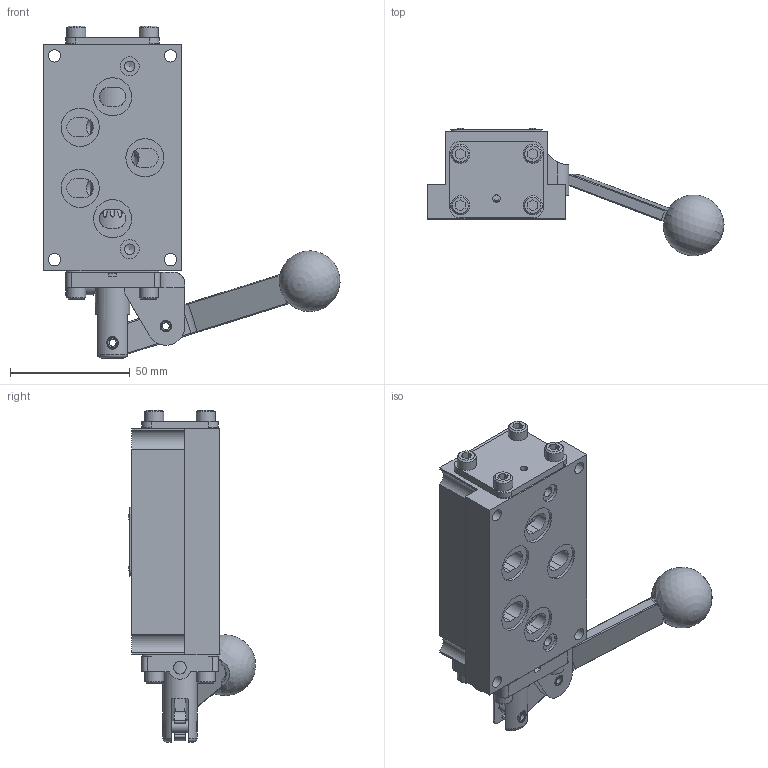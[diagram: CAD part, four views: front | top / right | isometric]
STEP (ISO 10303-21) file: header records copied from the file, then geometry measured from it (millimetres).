
FILE_DESCRIPTION(/* description */ (''),/* implementation_level */ '2;1');
FILE_NAME(/* name */ 'D:\Engineering\Product\valves\Assembly\lever\HE\stp\HE3PBLJRT.stp',/* time_stamp */ '2022-05-26T22:44:51-04:00',/* author */ ('RMcKenna'),/* organization */ (''),/* preprocessor_version */ 'ST-DEVELOPER v18.1',/* originating_system */ 'Autodesk Inventor 2021',/* authorisation */ '');
FILE_SCHEMA (('AUTOMOTIVE_DESIGN { 1 0 10303 214 3 1 1 }'));
Length unit declared in the file: centimetre
Products named in the file (1): Part55
Bounding box: 123.37 x 53.06 x 138.33 mm (x, y, z)
Volume: 173328.8 mm3; surface area: 58090.3 mm2
Topology: 1 solids, 30 shells, 969 faces, 2326 edges, 1474 vertices
Faces by surface type: plane 389, cone 226, cylinder 222, torus 93, bspline 36, sphere 3
Full cylindrical faces by diameter (mm): 2.07 x2, 2.261 x2, 2.778 x2, 3.175 x3, 3.683 x8, 3.861 x2, 4.366 x2, 4.369 x3, 4.75 x2, 4.763 x2, 4.826 x8, 4.978 x4, 5.055 x1, 5.156 x8, 5.159 x4, 5.283 x1, 7.798 x1, 7.925 x2, 7.938 x8, 8.153 x1, 9.922 x1, 11.113 x1, 11.303 x2, 14.275 x1, 14.986 x1, 15.875 x5, 18.618 x2, 18.745 x12, 19.177 x2, 23.825 x7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
Entity records: 32011 total; most frequent: CARTESIAN_POINT 8467, DIRECTION 4703, ORIENTED_EDGE 4610, EDGE_CURVE 2305, AXIS2_PLACEMENT_3D 1816, VERTEX_POINT 1474, EDGE_LOOP 1113, LINE 1071
